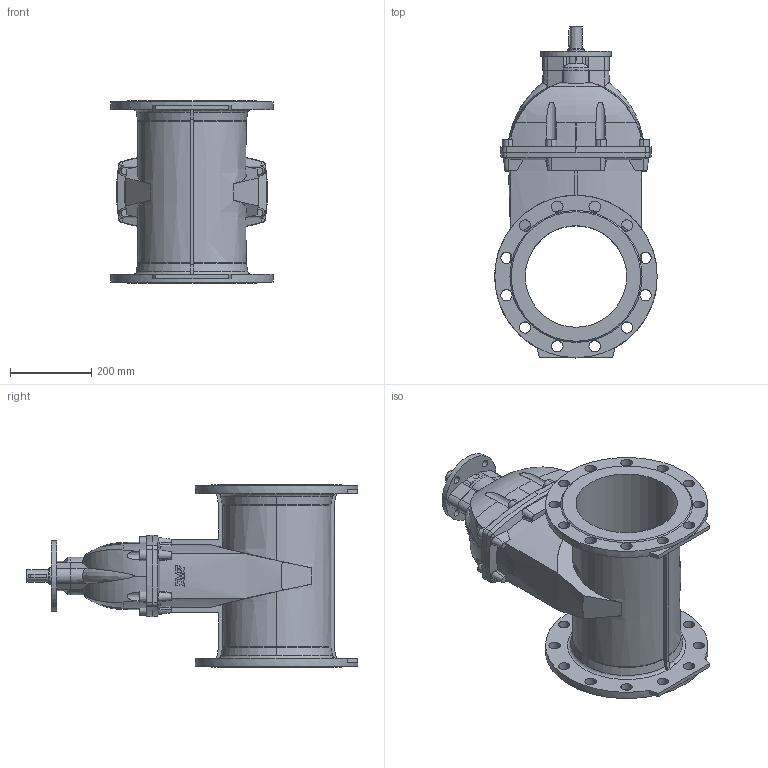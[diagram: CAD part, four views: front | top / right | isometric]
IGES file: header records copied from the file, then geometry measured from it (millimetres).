
Start section: SolidWorks IGES file using analytic representation for surfaces
Global section: file name: \\avksan2\techshare\PBM outline export from Enovia\O_15_72_DN250_X1X_AA0.igs; native system: SolidWorks 2012; preprocessor: SolidWorks 2012; author: pbm; date: 170310.100005; units: millimetre
Bounding box: 400 x 817 x 450 mm (x, y, z)
Surface area: 1500623.4 mm2 (no closed solid volume)
Topology: 0 solids, 0 shells, 348 faces, 1958 edges, 1880 vertices
Faces by surface type: revolution 184, bspline 164
